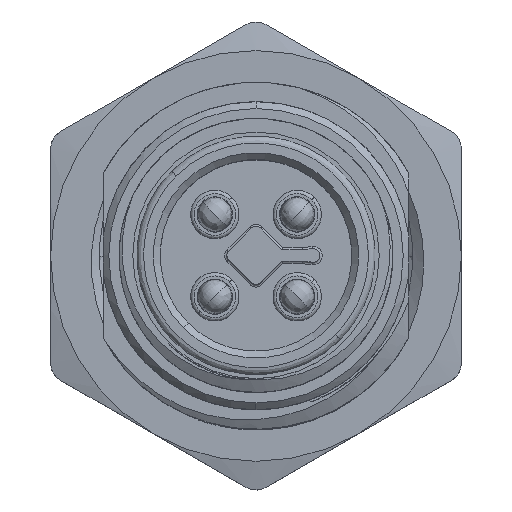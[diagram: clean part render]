
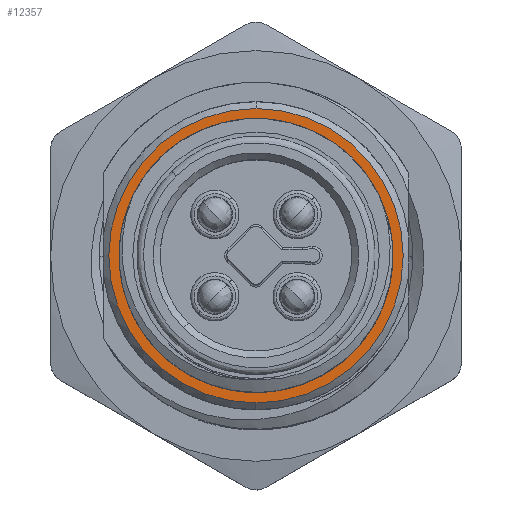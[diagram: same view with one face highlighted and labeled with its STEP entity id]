
A CAD part, top view. The second image highlights one B-rep face of the part: STEP entity #12357.
In plain terms, the highlighted planar face has unit normal (0, 0, 1).
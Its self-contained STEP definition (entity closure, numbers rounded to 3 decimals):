
#733 = CARTESIAN_POINT ( 'NONE',  ( 0., 0., -10. ) ) ;
#1803 = CARTESIAN_POINT ( 'NONE',  ( 0., 0., -10. ) ) ;
#2907 = ORIENTED_EDGE ( 'NONE', *, *, #15899, .F. ) ;
#3035 = DIRECTION ( 'NONE',  ( -1., 0., 0. ) ) ;
#4041 = CIRCLE ( 'NONE', #5576, 6.45 ) ;
#4215 = ORIENTED_EDGE ( 'NONE', *, *, #17813, .F. ) ;
#4672 = CARTESIAN_POINT ( 'NONE',  ( 0., -5.4, -10. ) ) ;
#5333 = AXIS2_PLACEMENT_3D ( 'NONE', #11850, #11974, #6360 ) ;
#5576 = AXIS2_PLACEMENT_3D ( 'NONE', #1803, #21736, #21381 ) ;
#5634 = DIRECTION ( 'NONE',  ( 0., 0., -1. ) ) ;
#5749 = DIRECTION ( 'NONE',  ( -1., 0., 0. ) ) ;
#6360 = DIRECTION ( 'NONE',  ( -1., 0., 0. ) ) ;
#7547 = DIRECTION ( 'NONE',  ( -1., 0., 0. ) ) ;
#8116 = ORIENTED_EDGE ( 'NONE', *, *, #14222, .F. ) ;
#8531 = VERTEX_POINT ( 'NONE', #4672 ) ;
#8741 = ORIENTED_EDGE ( 'NONE', *, *, #14005, .F. ) ;
#8870 = EDGE_LOOP ( 'NONE', ( #2907, #8116 ) ) ;
#9948 = PLANE ( 'NONE',  #5333 ) ;
#11848 = VERTEX_POINT ( 'NONE', #16658 ) ;
#11850 = CARTESIAN_POINT ( 'NONE',  ( 0., 0., -10. ) ) ;
#11974 = DIRECTION ( 'NONE',  ( 0., 0., -1. ) ) ;
#12357 = ADVANCED_FACE ( 'NONE', ( #15174, #22479 ), #9948, .F. ) ;
#12407 = CIRCLE ( 'NONE', #17724, 6.45 ) ;
#12721 = CARTESIAN_POINT ( 'NONE',  ( 0., -6.45, -10. ) ) ;
#12818 = AXIS2_PLACEMENT_3D ( 'NONE', #733, #18641, #7547 ) ;
#12951 = EDGE_LOOP ( 'NONE', ( #8741, #4215 ) ) ;
#14005 = EDGE_CURVE ( 'NONE', #11848, #8531, #15453, .T. ) ;
#14222 = EDGE_CURVE ( 'NONE', #20346, #15649, #4041, .T. ) ;
#14271 = CIRCLE ( 'NONE', #20001, 5.4 ) ;
#14573 = CARTESIAN_POINT ( 'NONE',  ( 0., 0., -10. ) ) ;
#15174 = FACE_BOUND ( 'NONE', #12951, .T. ) ;
#15453 = CIRCLE ( 'NONE', #12818, 5.4 ) ;
#15649 = VERTEX_POINT ( 'NONE', #18475 ) ;
#15667 = DIRECTION ( 'NONE',  ( 0., 0., 1. ) ) ;
#15899 = EDGE_CURVE ( 'NONE', #15649, #20346, #12407, .T. ) ;
#16658 = CARTESIAN_POINT ( 'NONE',  ( 0., 5.4, -10. ) ) ;
#17724 = AXIS2_PLACEMENT_3D ( 'NONE', #14573, #5634, #5749 ) ;
#17813 = EDGE_CURVE ( 'NONE', #8531, #11848, #14271, .T. ) ;
#18475 = CARTESIAN_POINT ( 'NONE',  ( 0., 6.45, -10. ) ) ;
#18641 = DIRECTION ( 'NONE',  ( 0., 0., 1. ) ) ;
#18913 = CARTESIAN_POINT ( 'NONE',  ( 0., 0., -10. ) ) ;
#20001 = AXIS2_PLACEMENT_3D ( 'NONE', #18913, #15667, #3035 ) ;
#20346 = VERTEX_POINT ( 'NONE', #12721 ) ;
#21381 = DIRECTION ( 'NONE',  ( -1., 0., 0. ) ) ;
#21736 = DIRECTION ( 'NONE',  ( 0., 0., -1. ) ) ;
#22479 = FACE_OUTER_BOUND ( 'NONE', #8870, .T. ) ;
